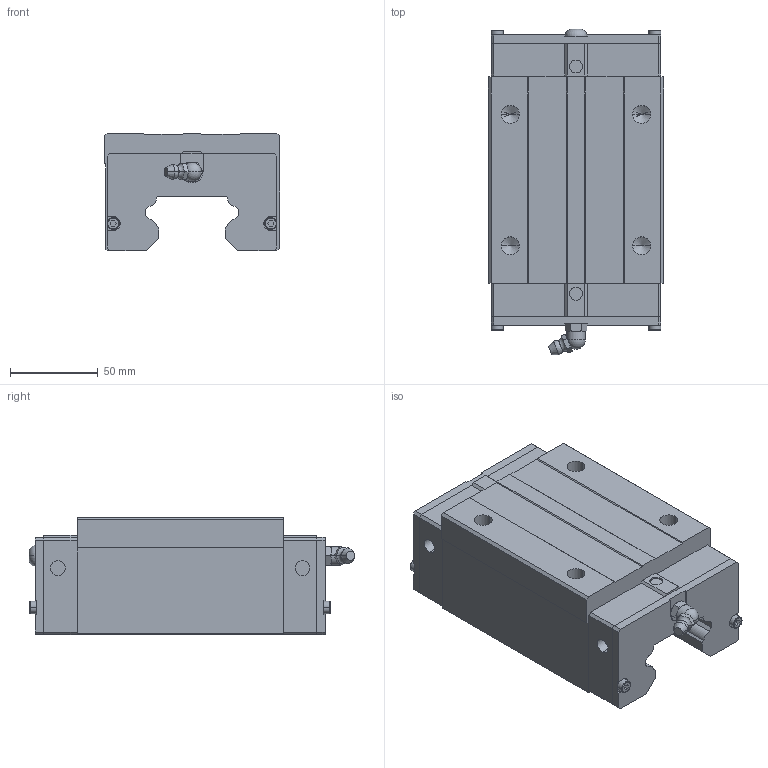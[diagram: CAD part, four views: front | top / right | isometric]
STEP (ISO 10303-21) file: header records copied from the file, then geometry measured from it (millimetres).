
FILE_DESCRIPTION(('no description'),'unknown implementation level');
FILE_NAME('HGH55CA_Z0_H_SS_12.stp',' ',('HIWIN GmbH'),('CADClick - KiM GmbH - www.kimweb.de'),'unknown preprocess','ACIS','unknown authorization');
FILE_SCHEMA(('automotive_design'));
Length unit declared in the file: millimetre
Products named in the file (1): HGH55CA Z0 H SS
Bounding box: 100 x 185.83 x 67 mm (x, y, z)
Volume: 800569.9 mm3; surface area: 81287.9 mm2
Topology: 1 solids, 6 shells, 293 faces, 757 edges, 479 vertices
Faces by surface type: plane 179, cylinder 60, torus 30, cone 22, sphere 2
Entity records: 17472 total; most frequent: CARTESIAN_POINT 1820, STYLED_ITEM 1520, PRESENTATION_STYLE_ASSIGNMENT 1520, COLOUR_RGB 1520, ORIENTED_EDGE 1494, DIRECTION 1486, EDGE_CURVE 747, CURVE_STYLE 747
